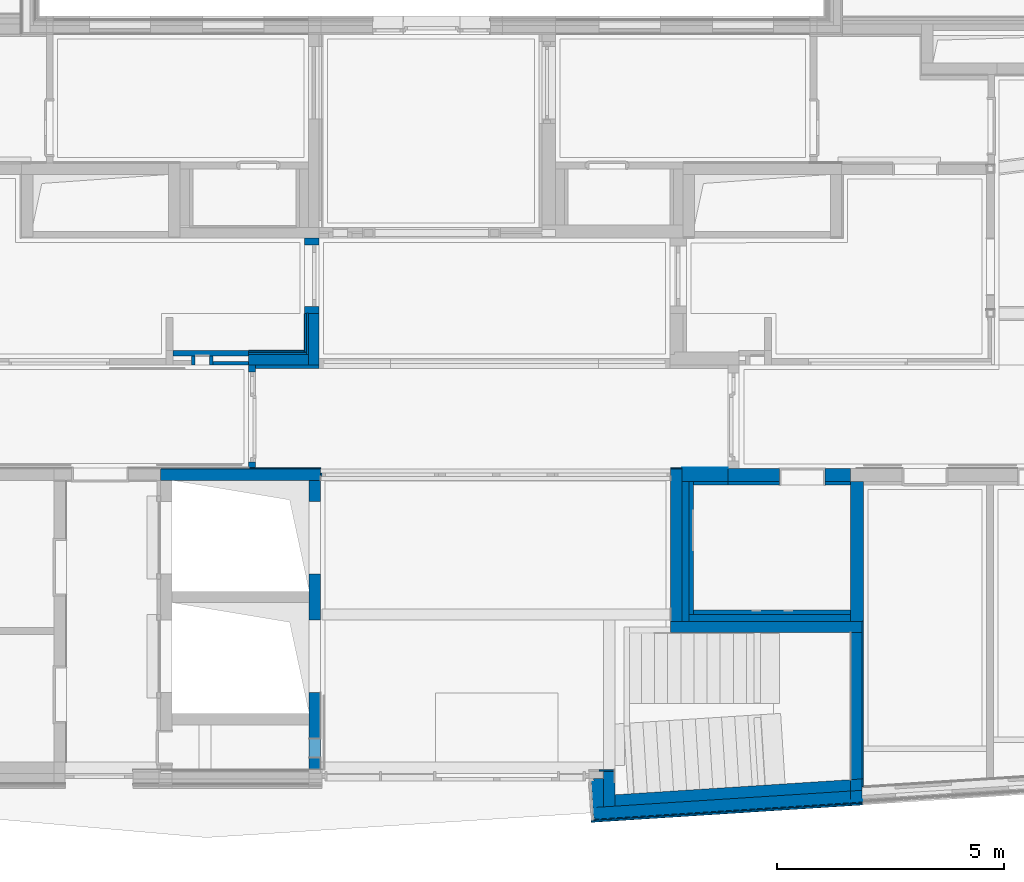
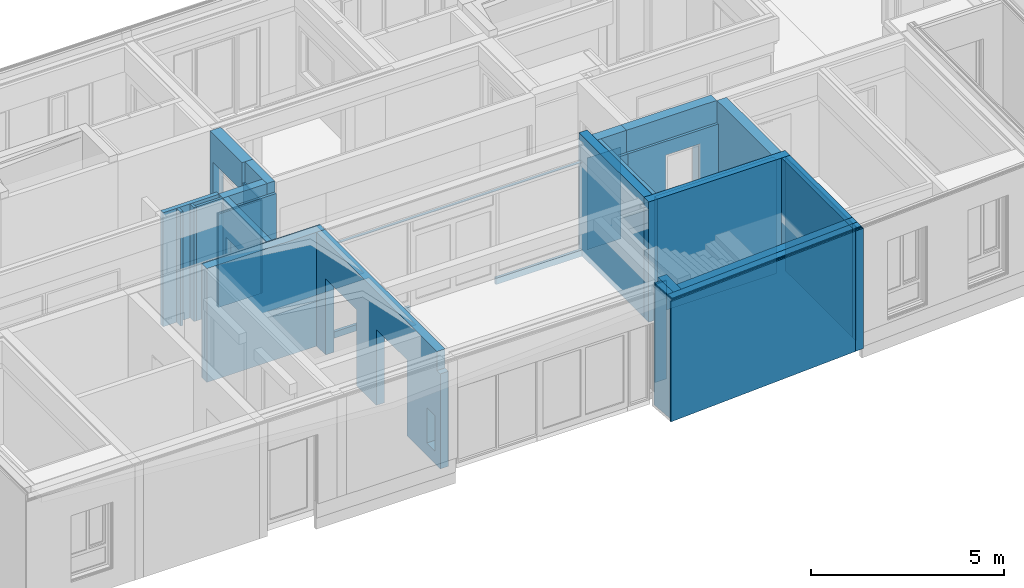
# One storey, part 26 of 207: 50 walls, 10 openings.
"""IFC4 building model written with IfcOpenShell, lengths in metres."""

from ifc_helpers import new_model, entity, si_unit, converted_unit, derived_unit, frame, frame_2d, origin, origin_with_axes, place, context, subcontext, project, spatial, polyline, rectangle, outline, extrude, clip, bounded_halfspace, material, element, save


model = new_model("IFC4")

# Units and contexts
model_context = context("Model", 3, precision=1e-05, world=origin())
body_context = subcontext(model_context, "Body", "Model", "MODEL_VIEW")
ifc_project = project(units=[si_unit("LENGTHUNIT", "METRE"), si_unit("AREAUNIT", "SQUARE_METRE"), si_unit("VOLUMEUNIT", "CUBIC_METRE"), si_unit("MASSUNIT", "GRAM", prefix="KILO"), converted_unit("PLANEANGLEUNIT", "DEGREE", entity("IfcPlaneAngleMeasure", 0.0174532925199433), si_unit("PLANEANGLEUNIT", "RADIAN"), dimensions=[0, 0, 0, 0, 0, 0, 0]), derived_unit("THERMALTRANSMITTANCEUNIT", [(si_unit("POWERUNIT", "WATT"), 1), (si_unit("THERMODYNAMICTEMPERATUREUNIT", "KELVIN"), -1), (si_unit("LENGTHUNIT", "METRE"), -2)]), derived_unit("VOLUMETRICFLOWRATEUNIT", [(si_unit("LENGTHUNIT", "METRE"), 3), (converted_unit("TIMEUNIT", "hour", entity("IfcTimeMeasure", 3600.0), si_unit("TIMEUNIT", "SECOND"), dimensions=[0, 0, 1, 0, 0, 0, 0]), -1), (si_unit("LENGTHUNIT", "METRE"), -1)])], contexts=[model_context])

# Site, building, storey
site_placement = place(None, origin())
site = spatial("IfcSite", under=ifc_project, at=site_placement, Name="Psychiatrie Neubau Wunstorf", CompositionType="ELEMENT")
building_placement = place(site_placement, origin())
building = spatial("IfcBuilding", under=site, at=building_placement, Name="Neubau H2 Stationsgebäude", CompositionType="ELEMENT")
storey_placement = place(building_placement, frame((0.0, 0.0, -0.2)))
storey = spatial("IfcBuildingStorey", under=building, at=storey_placement, Name="H2 Ebene 0", CompositionType="ELEMENT", Elevation=-0.2)

# Walls
ifc_material_1 = material(Name="WI-LB")
wall_1_placement = place(storey_placement, frame((62.5300107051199, -6.48192013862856, 0.0), z_axis=(0.0, 0.0, 1.0), x_axis=(0.0, 1.0, 0.0)))
element("IfcWall", 1, at=wall_1_placement, inside=storey, material=ifc_material_1, context=body_context, shape_type="SweptSolid", body=[
    extrude(outline(polyline([(0.0019265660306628, -0.03), (0.171271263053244, -0.03), (0.169346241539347, 0.0), (0.0, 0.0), (0.0019265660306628, -0.03)])), frame((-0.0019265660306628, 0.03, 0.0), z_axis=(0.0, 0.0, 1.0), x_axis=(1.0, 0.0, 0.0)), (0.0, 0.0, 1.0), 3.6),
])
ifc_material_2 = material(Name="WA-LB")
wall_2_placement = place(storey_placement, frame((57.0433838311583, -6.114000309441, 0.5), z_axis=(0.0, 0.0, 1.0), x_axis=(-1.0, 0.0, 0.0)))
element("IfcWall", 2, at=wall_2_placement, inside=storey, material=ifc_material_2, context=body_context, shape_type="SweptSolid", body=[
    extrude(rectangle(XDim=0.34613743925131, YDim=0.036, at=frame_2d((0.173068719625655, 0.018), x_axis=(1.0, 0.0))), origin_with_axes(), (0.0, 0.0, 1.0), 3.1),
])
ifc_material_3 = material(Name="WA-STB")
wall_3_placement = place(storey_placement, frame((62.5000107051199, -6.31450046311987, 0.0), z_axis=(0.0, 0.0, 1.0), x_axis=(-0.997947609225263, -0.0640356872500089, 0.0)))
element("IfcWall", 3, at=wall_3_placement, inside=storey, material=ifc_material_3, context=body_context, shape_type="SweptSolid", body=[
    extrude(outline(polyline([(-0.267262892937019, -0.249999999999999), (-0.0160418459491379, -0.249999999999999), (0.0, 0.0), (-0.251221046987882, 0.0), (-0.267262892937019, -0.249999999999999)])), frame((0.267262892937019, 0.249999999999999, 0.0), z_axis=(0.0, 0.0, 1.0), x_axis=(1.0, 0.0, 0.0)), (0.0, 0.0, 1.0), 3.8),
])
ifc_material_4 = material(Name="WA-DL")
wall_4_placement = place(storey_placement, frame((62.5000107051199, -6.5650146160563, 0.0), z_axis=(0.0, 0.0, 1.0), x_axis=(-0.997947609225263, -0.0640356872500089, 0.0)))
element("IfcWall", 4, at=wall_4_placement, inside=storey, material=ifc_material_4, context=body_context, shape_type="SweptSolid", body=[
    extrude(outline(polyline([(-0.264696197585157, -0.21), (-0.0134751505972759, -0.21), (0.0, 0.0), (-0.251221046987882, 0.0), (-0.264696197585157, -0.21)])), frame((0.264696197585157, 0.21, 0.0), z_axis=(0.0, 0.0, 1.0), x_axis=(1.0, 0.0, 0.0)), (0.0, 0.0, 1.0), 3.8),
])
ifc_material_5 = material(Name="WA-LB")
wall_5_placement = place(storey_placement, frame((62.5000107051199, -6.7754465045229, 0.5), z_axis=(0.0, 0.0, 1.0), x_axis=(-0.997947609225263, -0.0640356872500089, 0.0)))
element("IfcWall", 5, at=wall_5_placement, inside=storey, material=ifc_material_5, context=body_context, shape_type="SweptSolid", body=[
    extrude(outline(polyline([(-0.252568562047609, -0.0210000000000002), (-0.0013475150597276, -0.0210000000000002), (0.0, 0.0), (-0.251221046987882, 0.0), (-0.252568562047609, -0.0210000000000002)])), frame((0.252568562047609, 0.0210000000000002, 0.0), z_axis=(0.0, 0.0, 1.0), x_axis=(1.0, 0.0, 0.0)), (0.0, 0.0, 1.0), 3.3),
])
ifc_material_6 = material(Name="WA-KL")
wall_6_placement = place(storey_placement, frame((62.5000107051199, -6.79648969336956, 0.0), z_axis=(0.0, 0.0, 1.0), x_axis=(-0.997947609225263, -0.0640356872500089, 0.0)))
element("IfcWall", 6, at=wall_6_placement, inside=storey, material=ifc_material_6, context=body_context, shape_type="SweptSolid", body=[
    extrude(outline(polyline([(-0.252761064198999, -0.0239999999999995), (-0.00154001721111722, -0.0239999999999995), (0.0, 0.0), (-0.251221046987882, 0.0), (-0.252761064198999, -0.0239999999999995)])), frame((0.252761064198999, 0.0239999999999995, 0.0), z_axis=(0.0, 0.0, 1.0), x_axis=(1.0, 0.0, 0.0)), (0.0, 0.0, 1.0), 3.8),
])
ifc_material_7 = material(Name="WA-TL")
wall_7_placement = place(storey_placement, frame((62.5000107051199, -6.82053905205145, 0.0), z_axis=(0.0, 0.0, 1.0), x_axis=(-0.997947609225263, -0.0640356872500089, 0.0)))
element("IfcWall", 7, at=wall_7_placement, inside=storey, material=ifc_material_7, context=body_context, shape_type="SweptSolid", body=[
    extrude(outline(polyline([(-0.252761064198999, -0.0240000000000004), (-0.00154001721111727, -0.0240000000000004), (0.0, 0.0), (-0.251221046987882, 0.0), (-0.252761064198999, -0.0240000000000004)])), frame((0.252761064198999, 0.0240000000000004, 0.0), z_axis=(0.0, 0.0, 1.0), x_axis=(1.0, 0.0, 0.0)), (0.0, 0.0, 1.0), 3.8),
])
ifc_material_8 = material(Name="WA-HS")
wall_8_placement = place(storey_placement, frame((62.5000107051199, -6.84458841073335, 0.0), z_axis=(0.0, 0.0, 1.0), x_axis=(-0.997947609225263, -0.0640356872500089, 0.0)))
element("IfcWall", 8, at=wall_8_placement, inside=storey, material=ifc_material_8, context=body_context, shape_type="SweptSolid", body=[
    extrude(outline(polyline([(-0.253916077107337, -0.0419999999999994), (-0.00269503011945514, -0.0419999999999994), (0.0, 0.0), (-0.251221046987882, 0.0), (-0.253916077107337, -0.0419999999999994)])), frame((0.253916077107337, 0.0419999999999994, 0.0), z_axis=(0.0, 0.0, 1.0), x_axis=(1.0, 0.0, 0.0)), (0.0, 0.0, 1.0), 3.8),
])
ifc_material_9 = material(Name="WA-DL")
wall_9_placement = place(storey_placement, frame((56.7933838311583, -6.93119393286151, 0.0), z_axis=(0.0, 0.0, 1.0), x_axis=(0.0, 1.0, 0.0)))
element("IfcWall", 9, at=wall_9_placement, inside=storey, material=ifc_material_9, context=body_context, shape_type="SweptSolid", body=[
    extrude(outline(polyline([(0.547385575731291, -0.215889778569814), (0.632442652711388, -0.210431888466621), (0.632442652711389, 0.0), (0.0, -0.0405821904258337), (0.0112490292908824, -0.215889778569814), (0.547385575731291, -0.215889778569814)])), frame((-0.0112490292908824, 0.215889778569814, 0.0), z_axis=(0.0, 0.0, 1.0), x_axis=(1.0, 0.0, 0.0)), (0.0, 0.0, 1.0), 3.8),
])
ifc_material_10 = material(Name="WA-LB")
wall_10_placement = place(storey_placement, frame((56.6315237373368, -7.1520119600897, 0.5), z_axis=(0.0, 0.0, 1.0), x_axis=(-0.0640356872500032, 0.997947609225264, 0.0)))
element("IfcWall", 10, at=wall_10_placement, inside=storey, material=ifc_material_10, context=body_context, shape_type="SweptSolid", body=[
    extrude(outline(polyline([(-0.00313891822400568, -0.0699176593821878), (0.760439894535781, -0.0699176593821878), (0.762344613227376, -0.0489176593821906), (-0.00313891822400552, -0.0489176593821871), (-0.00313891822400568, -0.0699176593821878)])), frame((0.00313891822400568, 0.0699176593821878, 0.0), z_axis=(0.0, 0.0, 1.0), x_axis=(1.0, 0.0, 0.0)), (0.0, 0.0, 1.0), 3.3),
])
ifc_material_11 = material(Name="WA-KL")
wall_11_placement = place(storey_placement, frame((56.6119115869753, -7.17431360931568, 0.0), z_axis=(0.0, 0.0, 1.0), x_axis=(-0.0640356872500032, 0.997947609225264, 0.0)))
element("IfcWall", 11, at=wall_11_placement, inside=storey, material=ifc_material_11, context=body_context, shape_type="SweptSolid", body=[
    extrude(outline(polyline([(-0.00323395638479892, -0.0743987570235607), (0.783249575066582, -0.0743987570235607), (0.785426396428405, -0.0503987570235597), (-0.00323395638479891, -0.0503987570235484), (-0.00323395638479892, -0.0743987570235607)])), frame((0.00323395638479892, 0.0743987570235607, 0.0), z_axis=(0.0, 0.0, 1.0), x_axis=(1.0, 0.0, 0.0)), (0.0, 0.0, 1.0), 3.8),
])
ifc_material_12 = material(Name="WA-STB")
wall_12_placement = place(storey_placement, frame((57.0433838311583, -6.91515208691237, 0.0), z_axis=(0.0, 0.0, 1.0), x_axis=(0.0, 1.0, 0.0)))
element("IfcWall", 12, at=wall_12_placement, inside=storey, material=ifc_material_12, context=body_context, shape_type="SweptSolid", body=[
    extrude(outline(polyline([(0.0160418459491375, -0.249999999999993), (0.781193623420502, -0.249999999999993), (0.781193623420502, 0.0), (0.0, 0.0), (0.0160418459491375, -0.249999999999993)])), frame((-0.0160418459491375, 0.249999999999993, 0.0), z_axis=(0.0, 0.0, 1.0), x_axis=(1.0, 0.0, 0.0)), (0.0, 0.0, 1.0), 3.8),
])
ifc_material_13 = material(Name="WA-STB")
wall_13_placement = place(storey_placement, frame((62.2493052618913, -6.33058757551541, 0.0), z_axis=(0.0, 0.0, 1.0), x_axis=(-0.997947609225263, -0.0640356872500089, 0.0)))
element("IfcWall", 13, at=wall_13_placement, inside=storey, material=ifc_material_13, context=body_context, shape_type="SweptSolid", body=[
    extrude(outline(polyline([(-5.23266983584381, -0.249999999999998), (-0.0160418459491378, -0.249999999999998), (0.0, 0.0), (-5.21662798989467, 0.0), (-5.23266983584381, -0.249999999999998)])), frame((5.23266983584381, 0.249999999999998, 0.0), z_axis=(0.0, 0.0, 1.0), x_axis=(1.0, 0.0, 0.0)), (0.0, 0.0, 1.0), 3.8),
])
ifc_material_14 = material(Name="WA-DL")
wall_14_placement = place(storey_placement, frame((62.2493052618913, -6.58110172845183, 0.0), z_axis=(0.0, 0.0, 1.0), x_axis=(-0.997947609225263, -0.0640356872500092, 0.0)))
element("IfcWall", 14, at=wall_14_placement, inside=storey, material=ifc_material_14, context=body_context, shape_type="SweptSolid", body=[
    extrude(outline(polyline([(-5.65623016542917, -0.209138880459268), (-0.0134198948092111, -0.209138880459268), (-0.0134198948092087, 0.000861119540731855), (-5.64275501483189, 0.000861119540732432), (-5.65623016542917, -0.209138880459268)])), frame((5.65623016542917, 0.209138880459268, 0.0), z_axis=(0.0, 0.0, 1.0), x_axis=(1.0, 0.0, 0.0)), (0.0, 0.0, 1.0), 3.8),
])
ifc_material_15 = material(Name="WA-LB")
wall_15_placement = place(storey_placement, frame((62.2493052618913, -6.79153361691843, 0.5), z_axis=(0.0, 0.0, 1.0), x_axis=(-0.997947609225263, -0.064035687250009, 0.0)))
element("IfcWall", 15, at=wall_15_placement, inside=storey, material=ifc_material_15, context=body_context, shape_type="SweptSolid", body=[
    extrude(outline(polyline([(-5.6516771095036, -0.0209138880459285), (-0.00134198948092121, -0.0209138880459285), (-0.0013419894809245, 8.61119540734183e-05), (-5.65032959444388, 8.61119540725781e-05), (-5.6516771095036, -0.0209138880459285)])), frame((5.6516771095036, 0.0209138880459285, 0.0), z_axis=(0.0, 0.0, 1.0), x_axis=(1.0, 0.0, 0.0)), (0.0, 0.0, 1.0), 3.3),
])
ifc_material_16 = material(Name="WA-KL")
wall_16_placement = place(storey_placement, frame((62.2493052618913, -6.81257680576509, 0.0), z_axis=(0.0, 0.0, 1.0), x_axis=(-0.997947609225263, -0.0640356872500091, 0.0)))
element("IfcWall", 16, at=wall_16_placement, inside=storey, material=ifc_material_16, context=body_context, shape_type="SweptSolid", body=[
    extrude(outline(polyline([(-5.67452130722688, -0.0239015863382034), (-0.00153370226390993, -0.0239015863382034), (-0.00153370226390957, 9.84136617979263e-05), (-5.67298129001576, 9.84136617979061e-05), (-5.67452130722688, -0.0239015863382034)])), frame((5.67452130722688, 0.0239015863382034, 0.0), z_axis=(0.0, 0.0, 1.0), x_axis=(1.0, 0.0, 0.0)), (0.0, 0.0, 1.0), 3.8),
])
ifc_material_17 = material(Name="WA-TL")
wall_17_placement = place(storey_placement, frame((62.2493052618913, -6.83662616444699, 0.0), z_axis=(0.0, 0.0, 1.0), x_axis=(-0.997947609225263, -0.0640356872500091, 0.0)))
element("IfcWall", 17, at=wall_17_placement, inside=storey, material=ifc_material_17, context=body_context, shape_type="SweptSolid", body=[
    extrude(outline(polyline([(-5.69698129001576, -0.0239015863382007), (-0.00153370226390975, -0.0239015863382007), (-0.00153370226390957, 9.84136617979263e-05), (-5.69544127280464, 9.84136617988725e-05), (-5.69698129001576, -0.0239015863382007)])), frame((5.69698129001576, 0.0239015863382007, 0.0), z_axis=(0.0, 0.0, 1.0), x_axis=(1.0, 0.0, 0.0)), (0.0, 0.0, 1.0), 3.8),
])
ifc_material_18 = material(Name="WA-HS")
wall_18_placement = place(storey_placement, frame((62.2493052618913, -6.86067552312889, 0.0), z_axis=(0.0, 0.0, 1.0), x_axis=(-0.997947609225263, -0.064035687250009, 0.0)))
element("IfcWall", 18, at=wall_18_placement, inside=storey, material=ifc_material_18, context=body_context, shape_type="SweptSolid", body=[
    extrude(outline(polyline([(-5.73859154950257, -0.0418277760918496), (-0.00268397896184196, -0.0418277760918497), (-0.00268397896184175, 0.000172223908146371), (-5.73589651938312, 0.000172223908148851), (-5.73859154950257, -0.0418277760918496)])), frame((5.73859154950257, 0.0418277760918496, 0.0), z_axis=(0.0, 0.0, 1.0), x_axis=(1.0, 0.0, 0.0)), (0.0, 0.0, 1.0), 3.8),
])

# Wall, openings
ifc_material_19 = material(Name="WI-STB")
wall_19_placement = place(storey_placement, frame((50.5500000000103, -6.1210003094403, 0.0), z_axis=(0.0, 0.0, 1.0), x_axis=(0.0, 1.0, 0.0)))
wall_19 = element("IfcWall", 19, at=wall_19_placement, inside=storey, material=ifc_material_19, context=body_context, shape_type="Clipping", body=[
    clip(extrude(rectangle(XDim=6.3960003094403, YDim=0.25, at=frame_2d((3.19800015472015, 0.125), x_axis=(1.0, 0.0))), origin_with_axes(), (0.0, 0.0, 1.0), 3.6), bounded_halfspace(frame((0.0879999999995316, 0.125, 3.0), z_axis=(0.0, 0.0, -1.0), x_axis=(0.0, 1.0, 0.0)), True, origin_with_axes(), polyline([(0.175999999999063, 0.0), (0.175999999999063, 0.25), (0.0, 0.25), (0.0, 0.0), (0.175999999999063, 0.0)]))),
])
opening_1_placement = place(wall_19_placement, frame((4.33099999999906, 0.0, 0.0), z_axis=(0.0, 1.0, 0.0), x_axis=(0.0, 0.0, 1.0)))
element("IfcOpeningElement", 20, at=opening_1_placement, cuts=wall_19, Name="Türöffnung", ObjectType="Opening", context=body_context, shape_type="SweptSolid", body=[
    extrude(outline(polyline([(2.4, 1.6), (2.4, 0.0), (0.0, 0.0), (0.0, 1.6), (2.4, 1.6)])), origin_with_axes(), (0.0, 0.0, 1.0), 0.25),
])
opening_2_placement = place(wall_19_placement, frame((1.71101220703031, 0.0, 0.0), z_axis=(0.0, 1.0, 0.0), x_axis=(0.0, 0.0, 1.0)))
element("IfcOpeningElement", 21, at=opening_2_placement, cuts=wall_19, Name="Türöffnung", ObjectType="Opening", context=body_context, shape_type="SweptSolid", body=[
    extrude(outline(polyline([(2.4, 1.6), (2.4, 0.0), (0.0, 0.0), (0.0, 1.6), (2.4, 1.6)])), origin_with_axes(), (0.0, 0.0, 1.0), 0.25),
])
opening_3_placement = place(wall_19_placement, frame((0.696908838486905, 0.25, 0.4), z_axis=(0.0, -1.0, 0.0), x_axis=(0.0, 0.0, 1.0)))
element("IfcOpeningElement", 22, at=opening_3_placement, cuts=wall_19, Name="Wandnische", ObjectType="Opening", context=body_context, shape_type="SweptSolid", body=[
    extrude(outline(polyline([(1.12, 0.42), (1.12, 0.0), (0.0, 0.0), (0.0, 0.42), (1.12, 0.42)])), origin_with_axes(), (0.0, 0.0, 1.0), 0.25),
])

# Walls
ifc_material_20 = material(Name="WI-HW 60")
wall_20_placement = place(storey_placement, frame((62.2397936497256, 0.246002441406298, 0.0), z_axis=(0.0, 0.0, 1.0), x_axis=(0.0, -1.0, 0.0)))
element("IfcWall", 23, at=wall_20_placement, inside=storey, material=ifc_material_20, context=body_context, shape_type="SweptSolid", body=[
    extrude(rectangle(XDim=3.08449375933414, YDim=0.29, at=frame_2d((1.54224687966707, 0.145), x_axis=(1.0, 0.0))), origin_with_axes(), (0.0, 0.0, 1.0), 3.6),
])
ifc_material_21 = material(Name="WI-LB")
wall_21_placement = place(storey_placement, frame((48.1763707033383, 2.81749969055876, 0.0), z_axis=(0.0, 0.0, 1.0), x_axis=(0.0, 1.0, 0.0)))
element("IfcWall", 24, at=wall_21_placement, inside=storey, material=ifc_material_21, context=body_context, shape_type="SweptSolid", body=[
    extrude(rectangle(XDim=0.2, YDim=0.075, at=frame_2d((0.0999999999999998, 0.0375), x_axis=(1.0, 0.0))), origin_with_axes(), (0.0, 0.0, 1.0), 3.6),
])
ifc_material_22 = material(Name="WI-LB")
wall_22_placement = place(storey_placement, frame((47.7013707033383, 3.01749969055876, 0.0), z_axis=(0.0, 0.0, 1.0), x_axis=(0.0, -1.0, 0.0)))
element("IfcWall", 25, at=wall_22_placement, inside=storey, material=ifc_material_22, context=body_context, shape_type="SweptSolid", body=[
    extrude(rectangle(XDim=0.2, YDim=0.075, at=frame_2d((0.0999999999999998, 0.0375), x_axis=(1.0, 0.0))), origin_with_axes(), (0.0, 0.0, 1.0), 3.6),
])
ifc_material_23 = material(Name="WI-HW 60")
wall_23_placement = place(storey_placement, frame((50.5180000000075, 2.81749969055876, 0.0), z_axis=(0.0, 0.0, 1.0), x_axis=(0.0, 1.0, 0.0)))
element("IfcWall", 26, at=wall_23_placement, inside=storey, material=ifc_material_23, context=body_context, shape_type="SweptSolid", body=[
    extrude(rectangle(XDim=1.13500052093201, YDim=0.232, at=frame_2d((0.567500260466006, 0.116), x_axis=(1.0, 0.0))), origin_with_axes(), (0.0, 0.0, 1.0), 3.6),
])
ifc_material_24 = material(Name="Installationsraum")
wall_24_placement = place(storey_placement, frame((50.2860000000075, 3.04949969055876, 0.0), z_axis=(0.0, 0.0, 1.0), x_axis=(0.0, 1.0, 0.0)))
element("IfcWall", 27, at=wall_24_placement, inside=storey, material=ifc_material_24, context=body_context, shape_type="SweptSolid", body=[
    extrude(rectangle(XDim=0.918007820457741, YDim=0.05, at=frame_2d((0.459003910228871, 0.025), x_axis=(1.0, 0.0))), origin_with_axes(), (0.0, 0.0, 1.0), 2.95),
])
ifc_material_25 = material(Name="WI-LB")
wall_25_placement = place(storey_placement, frame((50.2360000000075, 3.10249969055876, 0.0), z_axis=(0.0, 0.0, 1.0), x_axis=(0.0, 1.0, 0.0)))
element("IfcWall", 28, at=wall_25_placement, inside=storey, material=ifc_material_25, context=body_context, shape_type="SweptSolid", body=[
    extrude(rectangle(XDim=0.850000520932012, YDim=0.04, at=frame_2d((0.425000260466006, 0.02), x_axis=(1.0, 0.0))), origin_with_axes(), (0.0, 0.0, 1.0), 2.95),
])
ifc_material_26 = material(Name="WI-LB")
wall_26_placement = place(storey_placement, frame((48.1763707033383, 2.81749969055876, 0.0)))
element("IfcWall", 29, at=wall_26_placement, inside=storey, material=ifc_material_26, context=body_context, shape_type="SweptSolid", body=[
    extrude(rectangle(XDim=0.788329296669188, YDim=0.075, at=frame_2d((0.394164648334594, 0.0375), x_axis=(1.0, 0.0))), origin_with_axes(), (0.0, 0.0, 1.0), 3.6),
])
ifc_material_27 = material(Name="WI-LB")
wall_27_placement = place(storey_placement, frame((49.1197000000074, 2.74249969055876, 0.0)))
element("IfcWall", 30, at=wall_27_placement, inside=storey, material=ifc_material_27, context=body_context, shape_type="SweptSolid", body=[
    extrude(rectangle(XDim=1.3983, YDim=0.075, at=frame_2d((0.699150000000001, 0.0375), x_axis=(1.0, 0.0))), origin_with_axes(), (0.0, 0.0, 1.0), 3.25),
])
ifc_material_28 = material(Name="WI-HW 60")
wall_28_placement = place(storey_placement, frame((48.9647000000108, 2.81749969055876, 0.0)))
element("IfcWall", 31, at=wall_28_placement, inside=storey, material=ifc_material_28, context=body_context, shape_type="SweptSolid", body=[
    extrude(rectangle(XDim=1.32129999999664, YDim=0.232, at=frame_2d((0.660649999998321, 0.116), x_axis=(1.0, 0.0))), origin_with_axes(), (0.0, 0.0, 1.0), 3.6),
])
ifc_material_29 = material(Name="Installationsraum")
wall_29_placement = place(storey_placement, frame((48.9647000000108, 3.04949969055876, 0.0)))
element("IfcWall", 32, at=wall_29_placement, inside=storey, material=ifc_material_29, context=body_context, shape_type="SweptSolid", body=[
    extrude(rectangle(XDim=1.27129999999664, YDim=0.053, at=frame_2d((0.635649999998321, 0.0265), x_axis=(1.0, 0.0))), origin_with_axes(), (0.0, 0.0, 1.0), 2.95),
])
ifc_material_30 = material(Name="WI-LB")
wall_30_placement = place(storey_placement, frame((48.9647000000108, 3.10249969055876, 0.0)))
element("IfcWall", 33, at=wall_30_placement, inside=storey, material=ifc_material_30, context=body_context, shape_type="SweptSolid", body=[
    extrude(rectangle(XDim=1.23129999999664, YDim=0.04, at=frame_2d((0.615649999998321, 0.02), x_axis=(1.0, 0.0))), origin_with_axes(), (0.0, 0.0, 1.0), 2.95),
])
ifc_material_31 = material(Name="WI-STB")
wall_31_placement = place(storey_placement, frame((47.0200048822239, 0.275, 0.0)))
element("IfcWall", 34, at=wall_31_placement, inside=storey, material=ifc_material_31, context=body_context, shape_type="SweptSolid", body=[
    extrude(rectangle(XDim=3.52999511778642, YDim=0.25, at=frame_2d((1.76499755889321, 0.125), x_axis=(1.0, 0.0))), origin_with_axes(), (0.0, 0.0, 1.0), 3.6),
])
ifc_material_32 = material(Name="WI-LB")
wall_32_placement = place(storey_placement, frame((47.0200048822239, 0.525, 0.0)))
element("IfcWall", 35, at=wall_32_placement, inside=storey, material=ifc_material_32, context=body_context, shape_type="SweptSolid", body=[
    extrude(rectangle(XDim=3.52999511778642, YDim=0.024, at=frame_2d((1.76499755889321, 0.012), x_axis=(1.0, 0.0))), origin_with_axes(), (0.0, 0.0, 1.0), 3.6),
])
ifc_material_33 = material(Name="WI-LB")
wall_33_placement = place(storey_placement, frame((47.292911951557, 3.01749969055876, 0.0)))
element("IfcWall", 36, at=wall_33_placement, inside=storey, material=ifc_material_33, context=body_context, shape_type="SweptSolid", body=[
    extrude(rectangle(XDim=1.67178804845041, YDim=0.125, at=frame_2d((0.835894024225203, 0.0625), x_axis=(1.0, 0.0))), origin_with_axes(), (0.0, 0.0, 1.0), 3.6),
])
ifc_material_34 = material(Name="Installationsraum")
wall_34_placement = place(storey_placement, frame((58.6780000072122, -2.83849131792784, 0.0)))
element("IfcWall", 37, at=wall_34_placement, inside=storey, material=ifc_material_34, context=body_context, shape_type="SweptSolid", body=[
    extrude(rectangle(XDim=3.56179364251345, YDim=0.15, at=frame_2d((1.78089682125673, 0.075), x_axis=(1.0, 0.0))), origin_with_axes(), (0.0, 0.0, 1.0), 3.6),
])
ifc_material_35 = material(Name="WI-VS")
wall_35_placement = place(storey_placement, frame((58.7780000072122, -2.68849131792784, 0.0)))
element("IfcWall", 38, at=wall_35_placement, inside=storey, material=ifc_material_35, context=body_context, shape_type="SweptSolid", body=[
    extrude(rectangle(XDim=3.46179364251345, YDim=0.1, at=frame_2d((1.73089682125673, 0.05), x_axis=(1.0, 0.0))), origin_with_axes(), (0.0, 0.0, 1.0), 3.6),
])
ifc_material_36 = material(Name="Installationsraum")
wall_36_placement = place(storey_placement, frame((58.5280000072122, 0.24600244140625, 0.0), z_axis=(0.0, 0.0, 1.0), x_axis=(0.0, -1.0, 0.0)))
element("IfcWall", 39, at=wall_36_placement, inside=storey, material=ifc_material_36, context=body_context, shape_type="Clipping", body=[
    clip(extrude(rectangle(XDim=3.08449375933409, YDim=0.15, at=frame_2d((1.54224687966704, 0.075), x_axis=(1.0, 0.0))), origin_with_axes(), (0.0, 0.0, 1.0), 3.6), bounded_halfspace(frame((0.00024877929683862, 0.0749999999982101, 2.9), z_axis=(-4.56978692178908e-13, 1.51582450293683e-15, 1.0), x_axis=(0.0, -1.0, 3.03164900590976e-15)), True, origin_with_axes(), polyline([(0.0, 0.14999999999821), (0.0, 0.0), (0.000497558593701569, 0.0), (0.000497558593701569, 0.15), (0.0, 0.14999999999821)]))),
])
ifc_material_37 = material(Name="WI-VS")
wall_37_placement = place(storey_placement, frame((58.6780000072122, 0.24600244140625, 0.0), z_axis=(0.0, 0.0, 1.0), x_axis=(0.0, -1.0, 0.0)))
element("IfcWall", 40, at=wall_37_placement, inside=storey, material=ifc_material_37, context=body_context, shape_type="Clipping", body=[
    clip(extrude(rectangle(XDim=2.93449375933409, YDim=0.1, at=frame_2d((1.46724687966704, 0.05), x_axis=(1.0, 0.0))), origin_with_axes(), (0.0, 0.0, 1.0), 3.6), bounded_halfspace(frame((0.000248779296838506, 0.05, 2.9), z_axis=(-4.56978692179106e-13, 2.27373675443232e-15, 1.0), x_axis=(0.0, -1.0, 4.54747350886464e-15)), True, origin_with_axes(), polyline([(0.0, 0.1), (0.0, 0.0), (0.000497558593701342, 0.0), (0.000497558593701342, 0.1), (0.0, 0.1)]))),
])

# Wall, opening
ifc_material_38 = material(Name="WI-LW 60")
wall_38_placement = place(storey_placement, frame((50.5180000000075, 3.95250021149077, 0.0), z_axis=(0.0, 0.0, 1.0), x_axis=(0.0, 1.0, 0.0)))
wall_38 = element("IfcWall", 41, at=wall_38_placement, inside=storey, material=ifc_material_38, context=body_context, shape_type="SweptSolid", body=[
    extrude(rectangle(XDim=1.66499947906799, YDim=0.322000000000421, at=frame_2d((0.832499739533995, 0.161000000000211), x_axis=(1.0, 0.0))), origin_with_axes(), (0.0, 0.0, 1.0), 3.6),
])
opening_4_placement = place(wall_38_placement, frame((0.1549999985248, 0.0, 0.0), z_axis=(0.0, 1.0, 0.0), x_axis=(0.0, 0.0, 1.0)))
element("IfcOpeningElement", 42, at=opening_4_placement, cuts=wall_38, Name="Türöffnung", ObjectType="Opening", context=body_context, shape_type="SweptSolid", body=[
    extrude(outline(polyline([(2.7, 1.35500120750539), (2.7, 0.0), (0.0, 0.0), (0.0, 1.35500120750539), (2.7, 1.35500120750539)])), origin_with_axes(), (0.0, 0.0, 1.0), 0.322),
])

# Wall, openings
ifc_material_39 = material(Name="WI-LB")
wall_39_placement = place(storey_placement, frame((50.5500000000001, 0.356002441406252, 0.0), z_axis=(0.0, 0.0, 1.0), x_axis=(1.0, -2.42731990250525e-16, 0.0)))
wall_39 = element("IfcWall", 43, at=wall_39_placement, inside=storey, material=ifc_material_39, context=body_context, shape_type="SweptSolid", body=[
    extrude(rectangle(XDim=7.7280000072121, YDim=0.08, at=frame_2d((3.86400000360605, 0.04), x_axis=(1.0, 0.0))), origin_with_axes(), (0.0, 0.0, 1.0), 2.97),
])
opening_5_placement = place(wall_39_placement, frame((0.0299996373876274, 0.0, 0.2), z_axis=(-2.22044604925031e-16, 1.0, 0.0), x_axis=(0.0, 0.0, 1.0)))
element("IfcOpeningElement", 44, at=opening_5_placement, cuts=wall_39, Name="Fensteröffnung", ObjectType="Opening", context=body_context, shape_type="SweptSolid", body=[
    extrude(outline(polyline([(2.75, 2.569), (2.75, 0.0), (0.0, 0.0), (0.0, 2.569), (2.75, 2.569)])), origin_with_axes(), (0.0, 0.0, 1.0), 0.08),
])
opening_6_placement = place(wall_39_placement, frame((2.59899982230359, 0.0, 0.0), z_axis=(0.0, 1.0, 0.0), x_axis=(0.0, 0.0, 1.0)))
element("IfcOpeningElement", 45, at=opening_6_placement, cuts=wall_39, Name="Türöffnung", ObjectType="Opening", context=body_context, shape_type="SweptSolid", body=[
    extrude(outline(polyline([(2.95, 2.56), (2.95, 0.0), (0.0, 0.0), (0.0, 2.56), (2.95, 2.56)])), origin_with_axes(), (0.0, 0.0, 1.0), 0.08),
])
opening_7_placement = place(wall_39_placement, frame((5.15899982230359, 0.0, 0.2), z_axis=(0.0, 1.0, 0.0), x_axis=(0.0, 0.0, 1.0)))
element("IfcOpeningElement", 46, at=opening_7_placement, cuts=wall_39, Name="Fensteröffnung", ObjectType="Opening", context=body_context, shape_type="SweptSolid", body=[
    extrude(outline(polyline([(2.75, 2.56900018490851), (2.75, 0.0), (0.0, 0.0), (0.0, 2.56900018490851), (2.75, 2.56900018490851)])), origin_with_axes(), (0.0, 0.0, 1.0), 0.08),
])

# Walls
ifc_material_40 = material(Name="WI-LB")
wall_40_placement = place(storey_placement, frame((59.5393138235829, 0.548502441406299, 0.0), z_axis=(0.0, 0.0, 1.0), x_axis=(-1.0, 0.0, 0.0)))
element("IfcWall", 47, at=wall_40_placement, inside=storey, material=ifc_material_40, context=body_context, shape_type="SweptSolid", body=[
    extrude(rectangle(XDim=1.01131381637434, YDim=0.0125, at=frame_2d((0.505656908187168, 0.00625), x_axis=(1.0, 0.0))), origin_with_axes(), (0.0, 0.0, 1.0), 2.9),
])
ifc_material_41 = material(Name="WI-HW 60")
wall_41_placement = place(storey_placement, frame((59.5393138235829, 0.536002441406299, 0.0), z_axis=(0.0, 0.0, 1.0), x_axis=(-1.0, 0.0, 0.0)))
element("IfcWall", 48, at=wall_41_placement, inside=storey, material=ifc_material_41, context=body_context, shape_type="SweptSolid", body=[
    extrude(rectangle(XDim=1.01131381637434, YDim=0.29, at=frame_2d((0.505656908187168, 0.145), x_axis=(1.0, 0.0))), origin_with_axes(), (0.0, 0.0, 1.0), 3.6),
])
ifc_material_42 = material(Name="WI-LB")
wall_42_placement = place(storey_placement, frame((59.5393138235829, 0.246002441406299, 0.0), z_axis=(0.0, 0.0, 1.0), x_axis=(-1.0, 0.0, 0.0)))
element("IfcWall", 49, at=wall_42_placement, inside=storey, material=ifc_material_42, context=body_context, shape_type="SweptSolid", body=[
    extrude(outline(polyline([(-1.01131381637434, -0.075), (0.0, -0.075), (0.0, -0.07450244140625), (-0.25, -0.07450244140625), (-0.25, 0.0), (-1.01131381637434, 0.0), (-1.01131381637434, -0.075)])), frame((1.01131381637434, 0.075, 0.0), z_axis=(0.0, 0.0, 1.0), x_axis=(1.0, 0.0, 0.0)), (0.0, 0.0, 1.0), 2.9),
])
ifc_material_43 = material(Name="WI-LB")
wall_43_placement = place(storey_placement, frame((58.2779951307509, 0.525, 0.0)))
element("IfcWall", 50, at=wall_43_placement, inside=storey, material=ifc_material_43, context=body_context, shape_type="SweptSolid", body=[
    extrude(rectangle(XDim=0.250004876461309, YDim=0.0235, at=frame_2d((0.125002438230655, 0.01175), x_axis=(1.0, 0.0))), origin_with_axes(), (0.0, 0.0, 1.0), 3.6),
])

# Wall, opening
ifc_material_44 = material(Name="WI-HW 60")
wall_44_placement = place(storey_placement, frame((62.239793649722, 0.536002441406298, 0.0), z_axis=(0.0, 0.0, 1.0), x_axis=(-1.0, 8.41975093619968e-17, 0.0)))
wall_44 = element("IfcWall", 51, at=wall_44_placement, inside=storey, material=ifc_material_44, context=body_context, shape_type="SweptSolid", body=[
    extrude(rectangle(XDim=2.70047982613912, YDim=0.29, at=frame_2d((1.35023991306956, 0.145), x_axis=(1.0, 0.0))), origin_with_axes(), (0.0, 0.0, 1.0), 3.6),
])
opening_8_placement = place(wall_44_placement, frame((0.555568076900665, 0.0, 0.0), z_axis=(0.0, 1.0, 0.0), x_axis=(0.0, 0.0, 1.0)))
element("IfcOpeningElement", 52, at=opening_8_placement, cuts=wall_44, Name="Türöffnung", ObjectType="Opening", context=body_context, shape_type="SweptSolid", body=[
    extrude(outline(polyline([(2.46, 1.01), (2.46, 0.0), (0.0, 0.0), (0.0, 1.01), (2.46, 1.01)])), origin_with_axes(), (0.0, 0.0, 1.0), 0.29),
])

ifc_material_45 = material(Name="WI-LB")
wall_45_placement = place(storey_placement, frame((62.239793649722, 0.246002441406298, 0.0), z_axis=(0.0, 0.0, 1.0), x_axis=(-1.0, 1.26296264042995e-16, 0.0)))
wall_45 = element("IfcWall", 53, at=wall_45_placement, inside=storey, material=ifc_material_45, context=body_context, shape_type="SweptSolid", body=[
    extrude(rectangle(XDim=2.70047982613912, YDim=0.075, at=frame_2d((1.35023991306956, 0.0375), x_axis=(1.0, 0.0))), origin_with_axes(), (0.0, 0.0, 1.0), 2.9),
])
opening_9_placement = place(wall_45_placement, frame((0.555568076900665, 0.0, 0.0), z_axis=(0.0, 1.0, 0.0), x_axis=(0.0, 0.0, 1.0)))
element("IfcOpeningElement", 54, at=opening_9_placement, cuts=wall_45, Name="Türöffnung", ObjectType="Opening", context=body_context, shape_type="SweptSolid", body=[
    extrude(outline(polyline([(2.46, 1.01), (2.46, 0.0), (0.0, 0.0), (0.0, 1.01), (2.46, 1.01)])), origin_with_axes(), (0.0, 0.0, 1.0), 0.075),
])

ifc_material_46 = material(Name="WI-LB")
wall_46_placement = place(storey_placement, frame((48.9647000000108, 2.81749969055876, 0.0), z_axis=(0.0, 0.0, 1.0), x_axis=(0.0, -1.0, 0.0)))
wall_46 = element("IfcWall", 55, at=wall_46_placement, inside=storey, material=ifc_material_46, context=body_context, shape_type="SweptSolid", body=[
    extrude(rectangle(XDim=2.29249969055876, YDim=0.155, at=frame_2d((1.14624984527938, 0.0775), x_axis=(1.0, 0.0))), origin_with_axes(), (0.0, 0.0, 1.0), 3.6),
])
opening_10_placement = place(wall_46_placement, frame((2.13749984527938, 0.155, 0.0), z_axis=(0.0, -1.0, 0.0), x_axis=(0.0, 0.0, 1.0)))
element("IfcOpeningElement", 56, at=opening_10_placement, cuts=wall_46, Name="Türöffnung", ObjectType="Opening", context=body_context, shape_type="SweptSolid", body=[
    extrude(outline(polyline([(2.46, 1.9825), (2.46, 0.0), (0.0, 0.0), (0.0, 1.9825), (2.46, 1.9825)])), origin_with_axes(), (0.0, 0.0, 1.0), 0.155),
])

# Walls
ifc_material_47 = material(Name="WI-STB")
wall_47_placement = place(storey_placement, frame((58.2780000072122, -3.08849131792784, 0.0)))
element("IfcWall", 57, at=wall_47_placement, inside=storey, material=ifc_material_47, context=body_context, shape_type="SweptSolid", body=[
    extrude(rectangle(XDim=4.22179364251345, YDim=0.25, at=frame_2d((2.11089682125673, 0.125), x_axis=(1.0, 0.0))), origin_with_axes(), (0.0, 0.0, 1.0), 3.8),
])
ifc_material_48 = material(Name="WI-STB")
wall_48_placement = place(storey_placement, frame((58.5280000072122, -2.83849131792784, 0.0), z_axis=(0.0, 0.0, 1.0), x_axis=(0.0, 1.0, 0.0)))
element("IfcWall", 58, at=wall_48_placement, inside=storey, material=ifc_material_48, context=body_context, shape_type="SweptSolid", body=[
    extrude(rectangle(XDim=3.36349131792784, YDim=0.25, at=frame_2d((1.68174565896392, 0.125), x_axis=(1.0, 0.0))), origin_with_axes(), (0.0, 0.0, 1.0), 3.8),
])
ifc_material_49 = material(Name="WI-STB")
wall_49_placement = place(storey_placement, frame((62.2497936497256, -3.08849131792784, 0.0), z_axis=(0.0, 0.0, 1.0), x_axis=(0.0, -1.0, 0.0)))
element("IfcWall", 59, at=wall_49_placement, inside=storey, material=ifc_material_49, context=body_context, shape_type="SweptSolid", body=[
    extrude(outline(polyline([(-3.24206491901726, 0.0), (0.0, 0.0), (-0.016041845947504, 0.25), (-3.24206491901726, 0.25), (-3.24206491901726, 0.0)])), frame((3.24206491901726, 0.0, 0.0), z_axis=(0.0, 0.0, 1.0), x_axis=(1.0, 0.0, 0.0)), (0.0, 0.0, 1.0), 3.8),
])
ifc_material_50 = material(Name="WI-LB")
wall_50_placement = place(storey_placement, frame((62.4997936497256, -2.83849131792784, 0.0), z_axis=(0.0, 0.0, 1.0), x_axis=(0.0, -1.0, 0.0)))
element("IfcWall", 60, at=wall_50_placement, inside=storey, material=ifc_material_50, context=body_context, shape_type="SweptSolid", body=[
    extrude(outline(polyline([(-3.47602307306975, 0.0), (0.0, 0.0), (-0.00192502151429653, 0.03), (-3.47602307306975, 0.03), (-3.47602307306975, 0.0)])), frame((3.47602307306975, 0.0, 0.0), z_axis=(0.0, 0.0, 1.0), x_axis=(1.0, 0.0, 0.0)), (0.0, 0.0, 1.0), 3.6),
])

save(model, "model.ifc")
